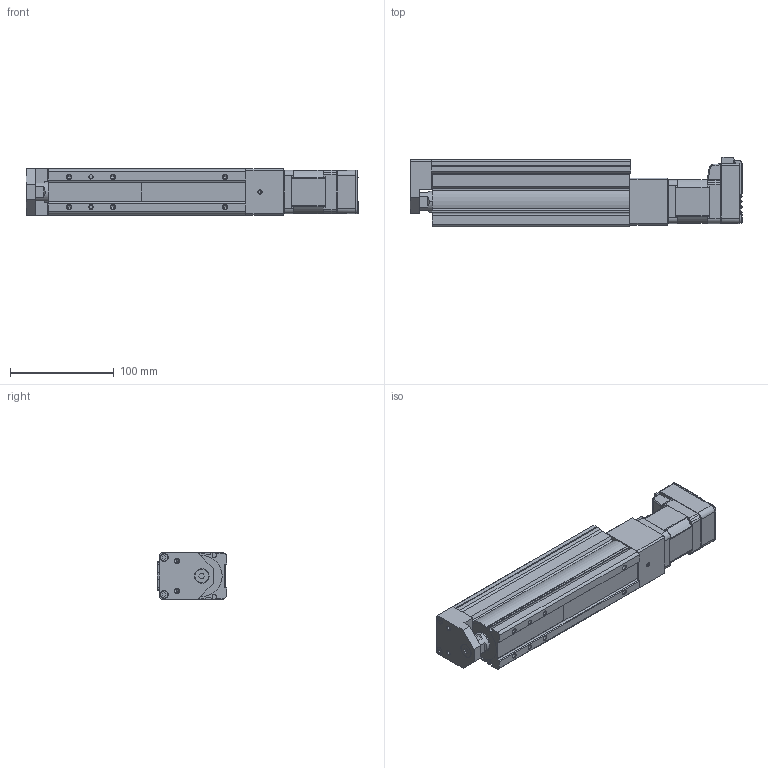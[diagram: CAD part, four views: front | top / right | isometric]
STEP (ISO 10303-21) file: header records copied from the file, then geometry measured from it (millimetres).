
FILE_DESCRIPTION (( 'STEP AP214' ), '1' );
FILE_NAME ('LESYH3(+)-16DNM1□-100-17L.STEP', '2025-05-30T02:05:43', ( '' ), ( '' ), 'SwSTEP 2.0', 'SolidWorks 2019', '' );
FILE_SCHEMA (( 'AUTOMOTIVE_DESIGN' ));
Length unit declared in the file: millimetre
Products named in the file (9): CM3(+)-17L50A; LESYH3(+)-16仏NM1仩-100_TABLE; LESYH3(+)-16DNM1□-100-17L; LESYH3(+)-16DNM1□_MOTOR Flange; LESYH3(+)-16仏NM1仩-100_BODY
Assembly tree (4 placements, depth 2):
  CM3(+)-17L50A
  LESYH3(+)-16DNM1□-100-17L
    LESYH3(+)-16仏NM1仩-100_BODY
    LESYH3(+)-16仏NM1仩-100_TABLE
    LESYH3(+)-16DNM1□_MOTOR Flange
    CM3(+)-17L50A
  LESYH3(+)-16DNM1□_MOTOR Flange
  LESYH3(+)-16仏NM1仩-100_TABLE
  LESYH3(+)-16仏NM1仩-100_BODY
Bounding box: 319.3 x 66.75 x 45 mm (x, y, z)
Volume: 695219.8 mm3; surface area: 134381.4 mm2
Topology: 4 solids, 4 shells, 1046 faces, 2639 edges, 1650 vertices
Faces by surface type: plane 533, cylinder 308, cone 126, bspline 29, torus 29, sphere 21
Full cylindrical faces by diameter (mm): 2.5 x4, 3.5 x4, 5 x1, 8 x1, 11 x1, 22 x1, 33 x1
Entity records: 40177 total; most frequent: CARTESIAN_POINT 7394, ORIENTED_EDGE 5164, DIRECTION 5067, EDGE_CURVE 2582, AXIS2_PLACEMENT_3D 1708, VECTOR 1651, LINE 1651, VERTEX_POINT 1646
